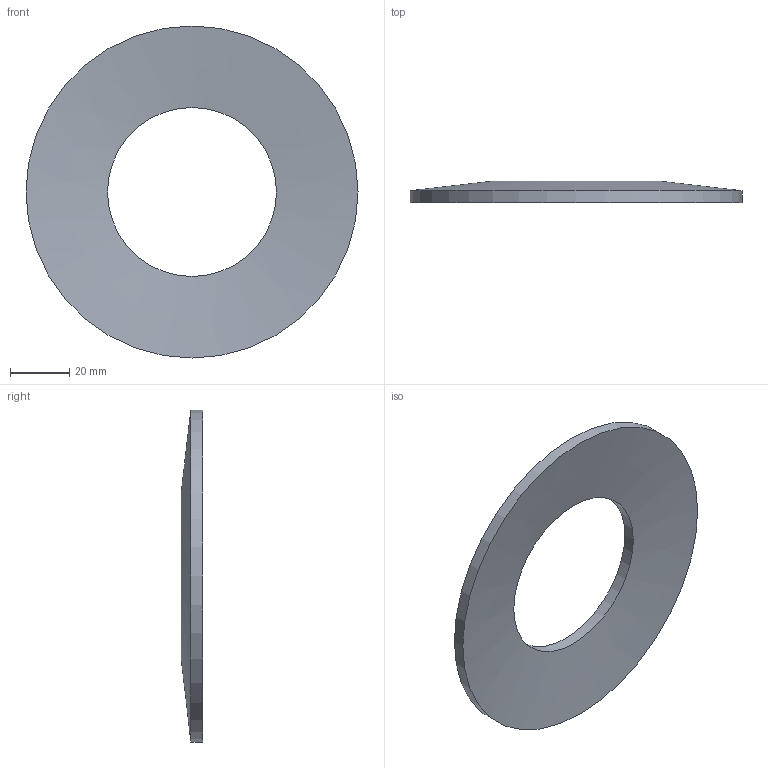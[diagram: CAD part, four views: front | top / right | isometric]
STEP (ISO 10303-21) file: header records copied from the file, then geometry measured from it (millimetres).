
FILE_DESCRIPTION(/* description */ ('17743N'),/* implementation_level */ '2;1');
FILE_NAME(/* name */ 'ST.1120.0570.0400.step',/* time_stamp */ '2026-09-18T10:34:18+02:00',/* author */ ('impex-ready.pl'),/* organization */ ('ST.1120.0570.0400'),/* preprocessor_version */ 'ST-DEVELOPER v20.1',/* originating_system */ 'Autodesk Inventor 2026',/* authorisation */ 'Ugiecie 0,75 h0 = 2.40');
FILE_SCHEMA (('AUTOMOTIVE_DESIGN { 1 0 10303 214 3 1 1 }'));
Length unit declared in the file: millimetre
Products named in the file (1): ST.1120.0570.0400
Bounding box: 112 x 7.2 x 112 mm (x, y, z)
Volume: 29394.9 mm3; surface area: 16835.3 mm2
Topology: 1 solids, 1 shells, 4 faces, 8 edges, 4 vertices
Faces by surface type: cone 2, cylinder 2
Full cylindrical faces by diameter (mm): 57 x1, 112 x1
Entity records: 151 total; most frequent: DIRECTION 22, CARTESIAN_POINT 17, ORIENTED_EDGE 16, AXIS2_PLACEMENT_3D 9, EDGE_CURVE 8, FACE_OUTER_BOUND 4, EDGE_LOOP 4, LINE 4
